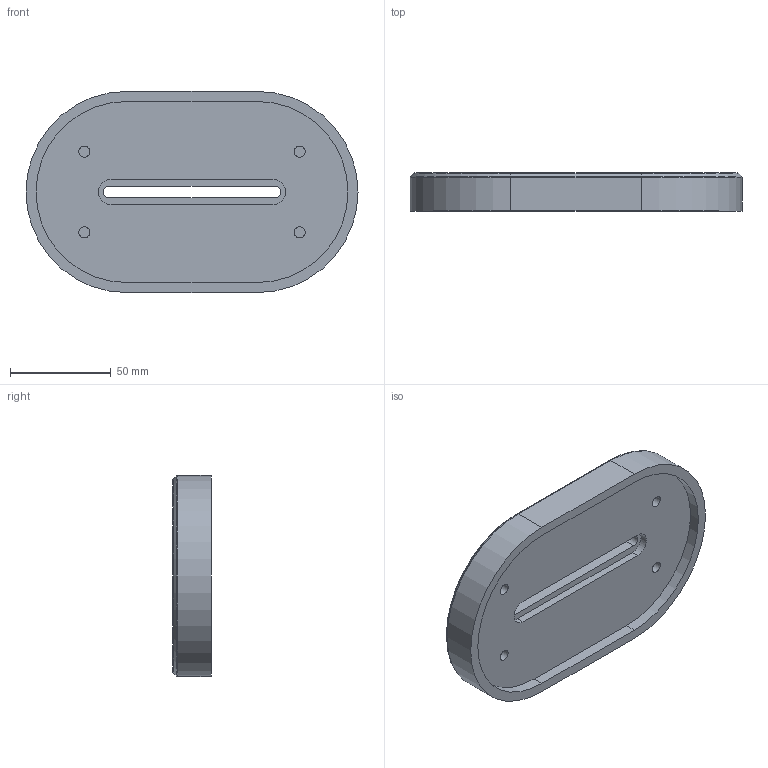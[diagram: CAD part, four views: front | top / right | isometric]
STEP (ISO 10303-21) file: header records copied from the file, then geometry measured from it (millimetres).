
FILE_DESCRIPTION (( 'STEP AP214' ), '1' );
FILE_NAME ('MONO_038-p308_01.STEP', '2025-09-23T04:37:07', ( '' ), ( '' ), 'SwSTEP 2.0', 'SolidWorks 2024', '' );
FILE_SCHEMA (( 'AUTOMOTIVE_DESIGN' ));
Length unit declared in the file: millimetre
Products named in the file (1): MONO_038-p308_01
Bounding box: 165 x 19 x 100 mm (x, y, z)
Volume: 194722.3 mm3; surface area: 40996.6 mm2
Topology: 1 solids, 1 shells, 48 faces, 100 edges, 60 vertices
Faces by surface type: plane 20, cylinder 18, torus 6, cone 4
Full cylindrical faces by diameter (mm): 5.5 x4
Entity records: 1277 total; most frequent: DIRECTION 240, CARTESIAN_POINT 205, ORIENTED_EDGE 192, EDGE_CURVE 96, AXIS2_PLACEMENT_3D 95, VERTEX_POINT 60, EDGE_LOOP 60, FACE_OUTER_BOUND 52
